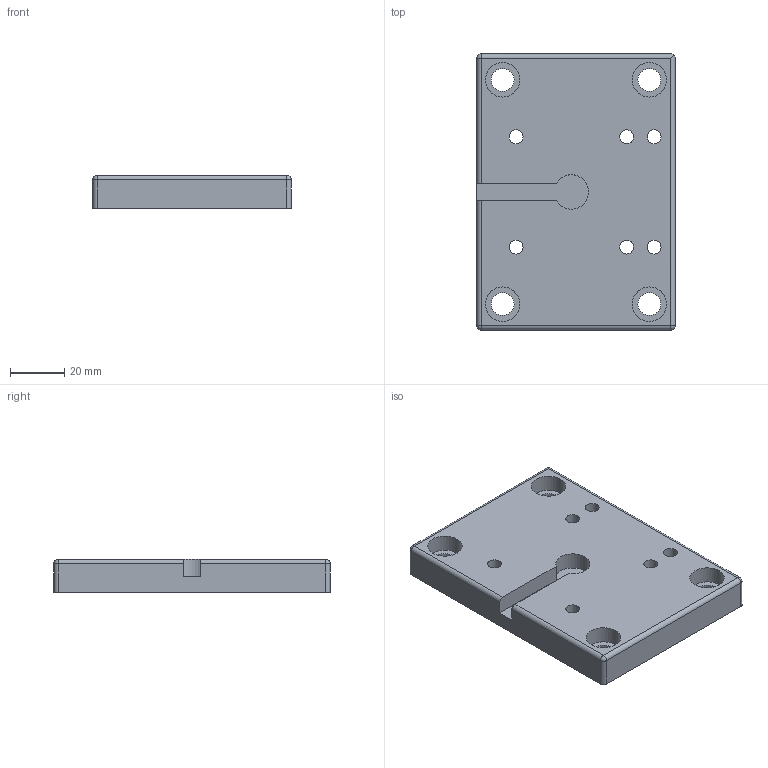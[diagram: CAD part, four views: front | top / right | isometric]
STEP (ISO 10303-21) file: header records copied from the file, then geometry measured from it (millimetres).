
FILE_DESCRIPTION((''),'2;1');
FILE_NAME('F:\CAD files\Itr\3D MARKETING MODELS\ACCESSORIES\AC1006\AC1006.stp','2017-04-24T12:07:08',('mlampen'),(''),'Autodesk Inventor 2010','Autodesk Inventor 2010','');
FILE_SCHEMA(('AUTOMOTIVE_DESIGN { 1 0 10303 214 1 1 1 1 }'));
Length unit declared in the file: inch
Products named in the file (1): Part2
Bounding box: 73.03 x 101.6 x 12.19 mm (x, y, z)
Volume: 80352.8 mm3; surface area: 22012.2 mm2
Topology: 1 solids, 1 shells, 52 faces, 120 edges, 77 vertices
Faces by surface type: cylinder 30, plane 19, sphere 3
Full cylindrical faces by diameter (mm): 5.08 x6, 8.382 x4, 9.525 x6, 12.7 x4
Entity records: 1391 total; most frequent: DIRECTION 257, CARTESIAN_POINT 215, ORIENTED_EDGE 182, AXIS2_PLACEMENT_3D 113, EDGE_LOOP 102, EDGE_CURVE 91, VERTEX_POINT 71, CIRCLE 57
